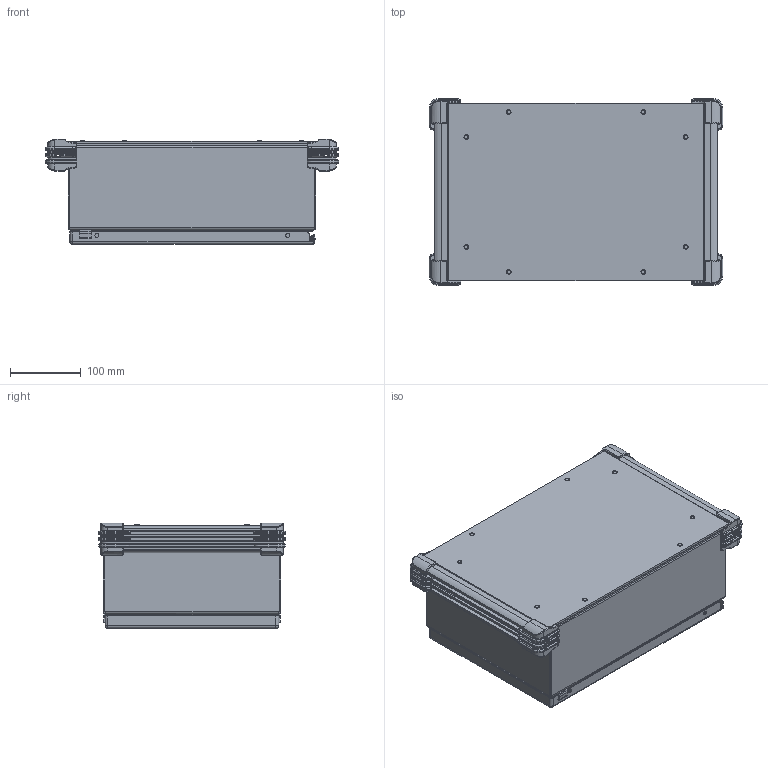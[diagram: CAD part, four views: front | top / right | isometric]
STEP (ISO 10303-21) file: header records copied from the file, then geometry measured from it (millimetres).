
FILE_DESCRIPTION (( 'STEP AP203' ), '1' );
FILE_NAME ('cp253512b.STEP', '2012-06-08T13:17:33', ( 'User' ), ( 'Pentair Inc' ), 'SwSTEP 2.0', 'SolidWorks 2010', '' );
FILE_SCHEMA (( 'CONFIG_CONTROL_DESIGN' ));
Length unit declared in the file: inch
Products named in the file (38): cp253512b; 89061111; 87789229_default; 99401225_Config-Drawing; 87938509_assy; 87938533_fip; 87938485; 87931362_87931362; 99401225; 87938556_87926013; 87921906_After Weld; 64101001; 64201001; 87541994_Installed Height; 87541995; 64202001; 64210001; 64203001; 87927840_87927840; 87932903; 64138001; 89061087; 87789205; 87541671_87541671; 87789167; 87789150; 87543027; 89076399; 89076193; 89056623; 87789726_ASSEMBLED; 89061410; 87792578; 87792576; 99416066; 87929507; 87929767; 87929769_Installed on Pin
Assembly tree (69 placements, depth 4):
  cp253512b
    87789726_ASSEMBLED
      89061410  x2
    99416066  x4
    87792578  x4
    87543027  x2
    89076399  x2
      89056623
      89076193
    87929507  x2
      87929769_Installed on Pin
      87929767
    87789150  x4
    87792576  x4
    89061111
      99401225_Config-Drawing  x3
      87789229_default
    89061087
      87789205
      87541671_87541671  x8
    87789167  x2
    87938509_assy
      64138001  x2
      87938533_fip
        87938556_87926013
        87931362_87931362  x2
        87938485
        87921906_After Weld  x4
        99401225
      87932903  x2
      64101001
        87541995
        87541994_Installed Height
        64201001
        87927840_87927840
        64203001
        64202001
        64210001
Bounding box: 414.3 x 263.88 x 149.3 mm (x, y, z)
Volume: 1301726.6 mm3; surface area: 1081223.8 mm2
Topology: 64 solids, 64 shells, 3978 faces, 10033 edges, 6158 vertices
Faces by surface type: plane 1573, cylinder 1331, bspline 432, torus 346, cone 244, sphere 52
Entity records: 67445 total; most frequent: CARTESIAN_POINT 21045, ORIENTED_EDGE 8932, DIRECTION 8309, EDGE_CURVE 4466, AXIS2_PLACEMENT_3D 3048, VERTEX_POINT 2764, LINE 2213, VECTOR 2213
